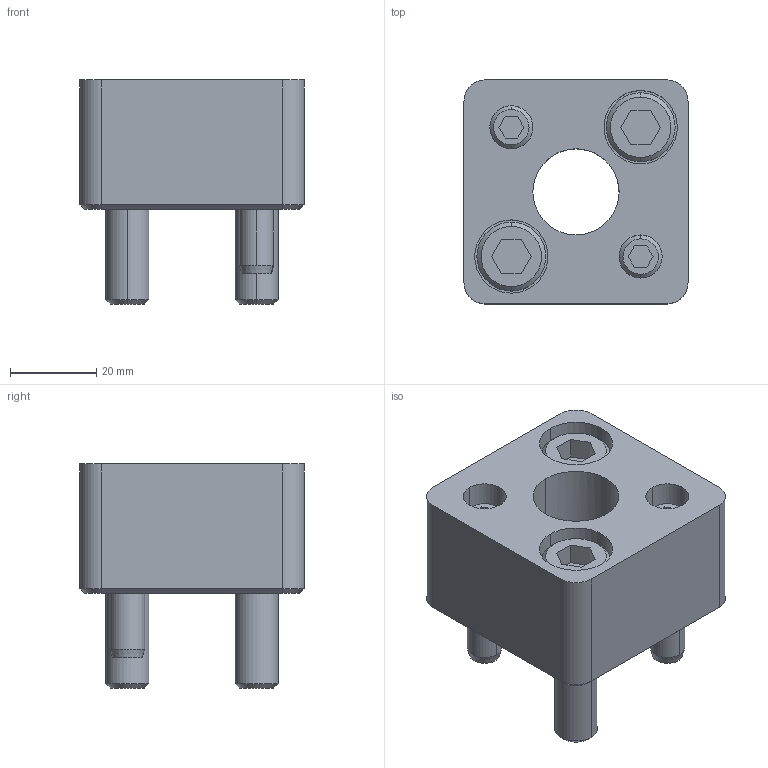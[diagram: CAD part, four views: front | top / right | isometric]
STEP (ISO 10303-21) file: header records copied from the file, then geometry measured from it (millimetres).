
FILE_DESCRIPTION(/* description */ (''),/* implementation_level */ '2;1');
FILE_NAME(/* name */ '3d_hmpdr20_04134_r00.stp',/* time_stamp */ '2011-01-10T14:14:42+09:00',/* author */ ('MISUMI'),/* organization */ (''),/* preprocessor_version */ 'ST-DEVELOPER v11',/* originating_system */ 'UGS - NX 5.0',/* authorisation */ '');
FILE_SCHEMA (('CONFIG_CONTROL_DESIGN'));
Length unit declared in the file: millimetre
Products named in the file (1): 3d_hmpdr20_04134_r00
Bounding box: 52 x 52 x 52 mm (x, y, z)
Volume: 71074.2 mm3; surface area: 23697.8 mm2
Topology: 7 solids, 7 shells, 147 faces, 326 edges, 207 vertices
Faces by surface type: plane 66, cylinder 51, cone 30
Entity records: 4194 total; most frequent: DIRECTION 744, CARTESIAN_POINT 738, ORIENTED_EDGE 652, EDGE_CURVE 326, AXIS2_PLACEMENT_3D 281, VERTEX_POINT 207, LINE 182, VECTOR 182
